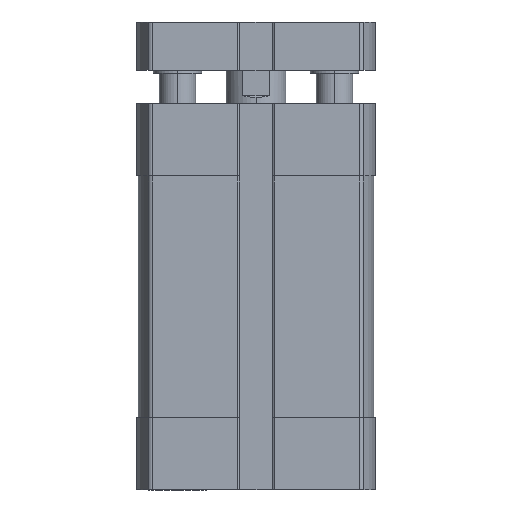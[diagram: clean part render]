
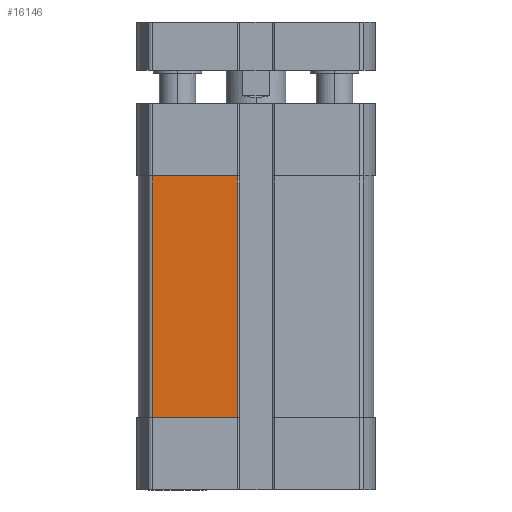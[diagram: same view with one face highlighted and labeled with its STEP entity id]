
A CAD part, front view. The second image highlights one B-rep face of the part: STEP entity #16146.
In plain terms, the highlighted planar face has unit normal (0, -1, 0) as drawn and (-1, 0, 0) by its records, which use the part's own axes.
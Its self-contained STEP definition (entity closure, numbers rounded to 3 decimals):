
#572 = ORIENTED_EDGE ( 'NONE', *, *, #12457, .T. ) ;
#1859 = EDGE_CURVE ( 'NONE', #4426, #19137, #1960, .T. ) ;
#1943 = AXIS2_PLACEMENT_3D ( 'NONE', #18007, #3340, #13691 ) ;
#1960 = LINE ( 'NONE', #3363, #17247 ) ;
#2074 = ORIENTED_EDGE ( 'NONE', *, *, #18788, .T. ) ;
#3233 = DIRECTION ( 'NONE',  ( 0., 1., 0. ) ) ;
#3340 = DIRECTION ( 'NONE',  ( -1., 0., 0. ) ) ;
#3363 = CARTESIAN_POINT ( 'NONE',  ( -19.5, 0., -12. ) ) ;
#3693 = DIRECTION ( 'NONE',  ( 0., -1., 0. ) ) ;
#4426 = VERTEX_POINT ( 'NONE', #7502 ) ;
#5017 = VECTOR ( 'NONE', #15716, 1000. ) ;
#5570 = VERTEX_POINT ( 'NONE', #6721 ) ;
#5692 = LINE ( 'NONE', #17558, #13119 ) ;
#5843 = DIRECTION ( 'NONE',  ( 0., 0., 1. ) ) ;
#5858 = ORIENTED_EDGE ( 'NONE', *, *, #13219, .T. ) ;
#6060 = CARTESIAN_POINT ( 'NONE',  ( -19.5, 17.091, -12. ) ) ;
#6721 = CARTESIAN_POINT ( 'NONE',  ( -19.5, 3.1, -52. ) ) ;
#7502 = CARTESIAN_POINT ( 'NONE',  ( -19.5, 3.1, -12. ) ) ;
#8334 = ORIENTED_EDGE ( 'NONE', *, *, #1859, .T. ) ;
#9833 = LINE ( 'NONE', #16943, #17170 ) ;
#10869 = EDGE_LOOP ( 'NONE', ( #2074, #5858, #8334, #572 ) ) ;
#12207 = PLANE ( 'NONE',  #1943 ) ;
#12457 = EDGE_CURVE ( 'NONE', #19137, #17490, #16766, .T. ) ;
#13119 = VECTOR ( 'NONE', #5843, 1000. ) ;
#13219 = EDGE_CURVE ( 'NONE', #5570, #4426, #5692, .T. ) ;
#13691 = DIRECTION ( 'NONE',  ( 0., 0., 1. ) ) ;
#15716 = DIRECTION ( 'NONE',  ( 0., 0., -1. ) ) ;
#16146 = ADVANCED_FACE ( 'NONE', ( #16797 ), #12207, .T. ) ;
#16611 = CARTESIAN_POINT ( 'NONE',  ( -19.5, 17.091, -52. ) ) ;
#16766 = LINE ( 'NONE', #17199, #5017 ) ;
#16797 = FACE_OUTER_BOUND ( 'NONE', #10869, .T. ) ;
#16943 = CARTESIAN_POINT ( 'NONE',  ( -19.5, 17.091, -52. ) ) ;
#17170 = VECTOR ( 'NONE', #3693, 1000. ) ;
#17199 = CARTESIAN_POINT ( 'NONE',  ( -19.5, 17.091, -52. ) ) ;
#17247 = VECTOR ( 'NONE', #3233, 1000. ) ;
#17490 = VERTEX_POINT ( 'NONE', #16611 ) ;
#17558 = CARTESIAN_POINT ( 'NONE',  ( -19.5, 3.1, -52. ) ) ;
#18007 = CARTESIAN_POINT ( 'NONE',  ( -19.5, 17.091, -52. ) ) ;
#18788 = EDGE_CURVE ( 'NONE', #17490, #5570, #9833, .T. ) ;
#19137 = VERTEX_POINT ( 'NONE', #6060 ) ;
